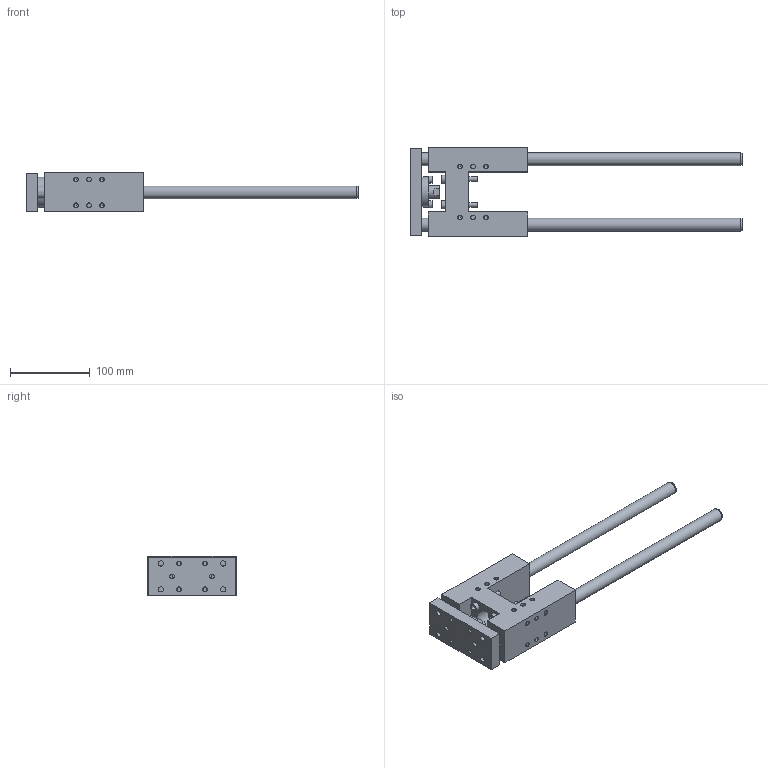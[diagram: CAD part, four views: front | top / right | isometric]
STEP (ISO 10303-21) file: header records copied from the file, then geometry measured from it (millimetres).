
FILE_DESCRIPTION( ( 'STEP AP214' ), '1' );
FILE_NAME( 'U:/Etudes/Top Solid/BIBLIO 3D AVM/TOP/PNEUMATIQUE/GUIDAGES/Type 32 (en H)/R_Renforcée/324R5_30.step', '2005-05-27T08:52:02', ( ' ' ), ( ' ' ), 'XStep 1.0', ' ', ' ' );
FILE_SCHEMA( ( 'automotive_design' ) );
Length unit declared in the file: metre
Products named in the file (2): 1; 2
Bounding box: 417 x 112 x 49 mm (x, y, z)
Volume: 619466 mm3; surface area: 137302.3 mm2
Topology: 2 solids, 5 shells, 269 faces, 602 edges, 401 vertices
Faces by surface type: plane 128, cylinder 96, cone 45
Full cylindrical faces by diameter (mm): 4.918 x32, 5 x4, 5.5 x2, 6 x16, 6.2 x12, 6.5 x4, 6.6 x4, 8.5 x2, 8.647 x2, 10 x4, 11 x4, 16 x5, 18 x1, 22.8 x1, 25 x1, 30 x1, 38 x1
Entity records: 8627 total; most frequent: CARTESIAN_POINT 1195, DIRECTION 1138, ORIENTED_EDGE 772, EDGE_LOOP 500, AXIS2_PLACEMENT_3D 487, EDGE_CURVE 386, FACE_OUTER_BOUND 365, VERTEX_POINT 340
